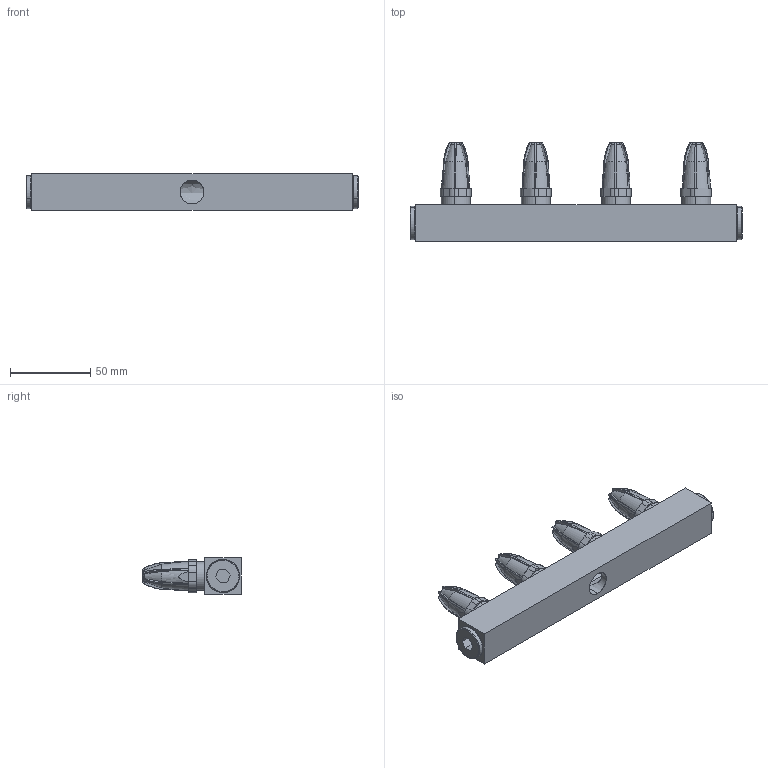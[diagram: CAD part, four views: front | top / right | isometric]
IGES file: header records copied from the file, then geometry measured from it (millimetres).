
Start section: SolidWorks IGES file using analytic representation for surfaces
Global section: file name: C:\Users\p.jaasko\Silvent\ENGINEERING - Documents\General\Drawings\WEB CAD\NEW CAD 2026\SILVENT_304_L.IGS; native system: SolidWorks 2021; preprocessor: SolidWorks 2021; author: p.jaasko; date: 250829.083800; units: millimetre
Bounding box: 207 x 61.65 x 23 mm (x, y, z)
Surface area: 46193.8 mm2 (no closed solid volume)
Topology: 0 solids, 0 shells, 370 faces, 4880 edges, 4880 vertices
Faces by surface type: revolution 188, bspline 182
